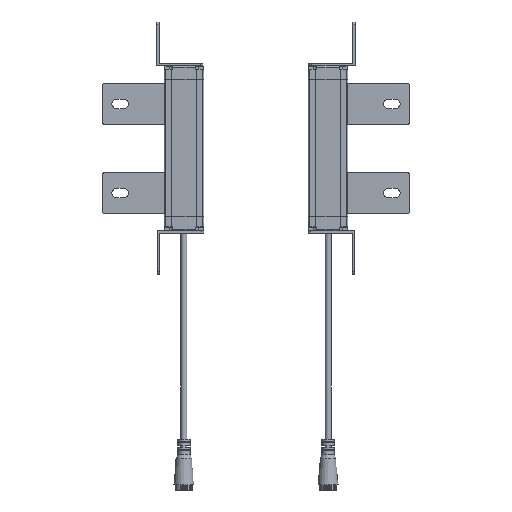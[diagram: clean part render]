
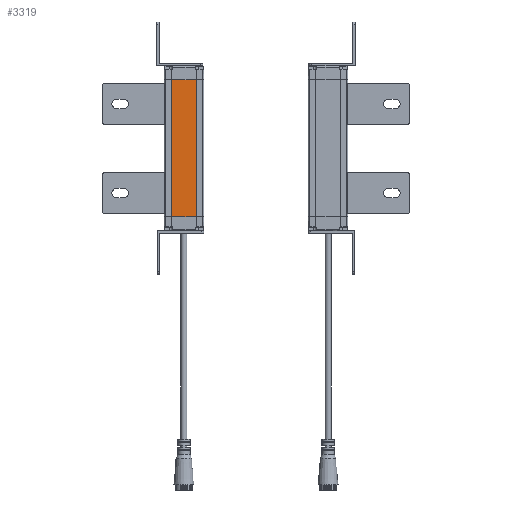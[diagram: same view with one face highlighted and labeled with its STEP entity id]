
A CAD part, left-side view. The second image highlights one B-rep face of the part: STEP entity #3319.
In plain terms, the highlighted planar face has unit normal (-1, 0, 0).
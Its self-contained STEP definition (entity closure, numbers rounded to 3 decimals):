
#1795=FACE_OUTER_BOUND('',#5986,.T.);
#3319=ADVANCED_FACE('',(#1795),#4749,.T.);
#4749=PLANE('',#29857);
#5986=EDGE_LOOP('',(#9184,#9185,#9186,#9187));
#9184=ORIENTED_EDGE('',*,*,#19383,.F.);
#9185=ORIENTED_EDGE('',*,*,#19072,.T.);
#9186=ORIENTED_EDGE('',*,*,#19385,.T.);
#9187=ORIENTED_EDGE('',*,*,#19386,.F.);
#16145=VERTEX_POINT('',#43699);
#16146=VERTEX_POINT('',#43701);
#16357=VERTEX_POINT('',#44323);
#16358=VERTEX_POINT('',#44327);
#19072=EDGE_CURVE('',#16146,#16145,#24663,.T.);
#19383=EDGE_CURVE('',#16146,#16357,#24884,.T.);
#19385=EDGE_CURVE('',#16145,#16358,#24886,.T.);
#19386=EDGE_CURVE('',#16357,#16358,#24887,.T.);
#24663=LINE('',#43700,#27142);
#24884=LINE('',#44322,#27363);
#24886=LINE('',#44326,#27365);
#24887=LINE('',#44328,#27366);
#27142=VECTOR('',#33404,1.);
#27363=VECTOR('',#34005,1.);
#27365=VECTOR('',#34009,1.);
#27366=VECTOR('',#34010,1.);
#29857=AXIS2_PLACEMENT_3D('',#44329,#34011,#34012);
#33404=DIRECTION('',(0.,1.,0.));
#34005=DIRECTION('',(0.,0.,-1.));
#34009=DIRECTION('',(0.,0.,-1.));
#34010=DIRECTION('',(0.,1.,0.));
#34011=DIRECTION('',(-1.,0.,0.));
#34012=DIRECTION('',(0.,1.,0.));
#43699=CARTESIAN_POINT('',(50.4,-5.5,58.059));
#43700=CARTESIAN_POINT('',(50.4,-5.5,58.059));
#43701=CARTESIAN_POINT('',(50.4,-23.5,58.059));
#44322=CARTESIAN_POINT('',(50.4,-23.5,103.059));
#44323=CARTESIAN_POINT('',(50.4,-23.5,-41.941));
#44326=CARTESIAN_POINT('',(50.4,-5.5,103.059));
#44327=CARTESIAN_POINT('',(50.4,-5.5,-41.941));
#44328=CARTESIAN_POINT('',(50.4,-23.5,-41.941));
#44329=CARTESIAN_POINT('',(50.4,-5.5,-61.941));
